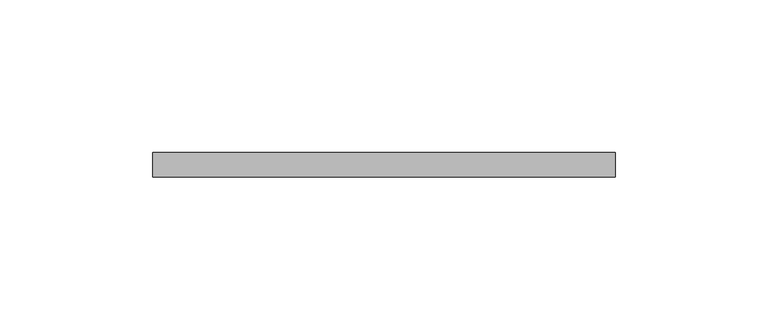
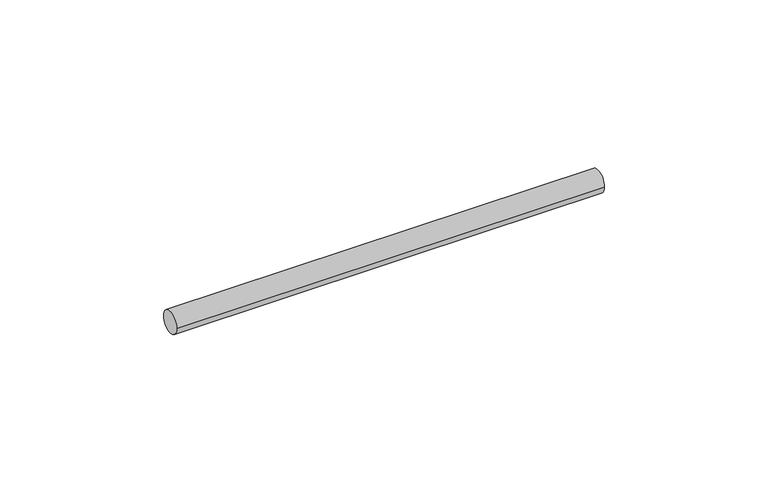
"""IFC4 building model written with IfcOpenShell, lengths in millimetres: valve geometry, Superfix Threaded Rod (used for clamps) : Threaded Rod - 1000 mm (used for clamps)."""

from ifc_helpers import new_model, si_unit, point, frame, origin, origin_2d, place, context, project, spatial, circle_curve, trimmed, segment, composite_curve, outline, extrude, source, transform, mapped, element, save


def valve_9c502f16(model_context):
    return source(origin(), model_context, "Body", "SweptSolid", [
        extrude(outline(composite_curve([segment(trimmed(circle_curve(origin_2d(), 4.0), [point((-4.0, 0.0))], [point((4.0, 0.0))], False, "CARTESIAN"), True, "CONTINUOUS"), segment(trimmed(circle_curve(origin_2d(), 4.0), [point((4.0, 0.0))], [point((-4.0, 0.0))], False, "CARTESIAN"), True, "CONTINUOUS")], self_intersect=False)), frame((-10.0, 0.0, 0.0), z_axis=(1.0, 0.0, 0.0), x_axis=(0.0, 1.0, 0.0)), (0.0, 0.0, 1.0), 151.0),
    ])


if __name__ == "__main__":
    model = new_model("IFC4")
    model_context = context("Model", 3, world=origin())
    ifc_project = project(units=[si_unit("LENGTHUNIT", "METRE", prefix="MILLI")], contexts=[model_context])
    site = spatial("IfcSite", under=ifc_project)
    building = spatial("IfcBuilding", under=site)
    placement = place(None, origin())
    valve_shape = valve_9c502f16(model_context)
    element("IfcValve", 1, ObjectType="Superfix Threaded Rod (used for clamps) : Threaded Rod - 1000 mm (used for clamps)", at=placement, inside=building, context=model_context, shape_type="MappedRepresentation", body=[
        mapped(valve_shape, transform((0.0, 0.0, 0.0), x_axis=(1.0, 0.0, 0.0), y_axis=(0.0, 1.0, 0.0), z_axis=(0.0, 0.0, 1.0))),
    ])
    save(model, "model.ifc")
